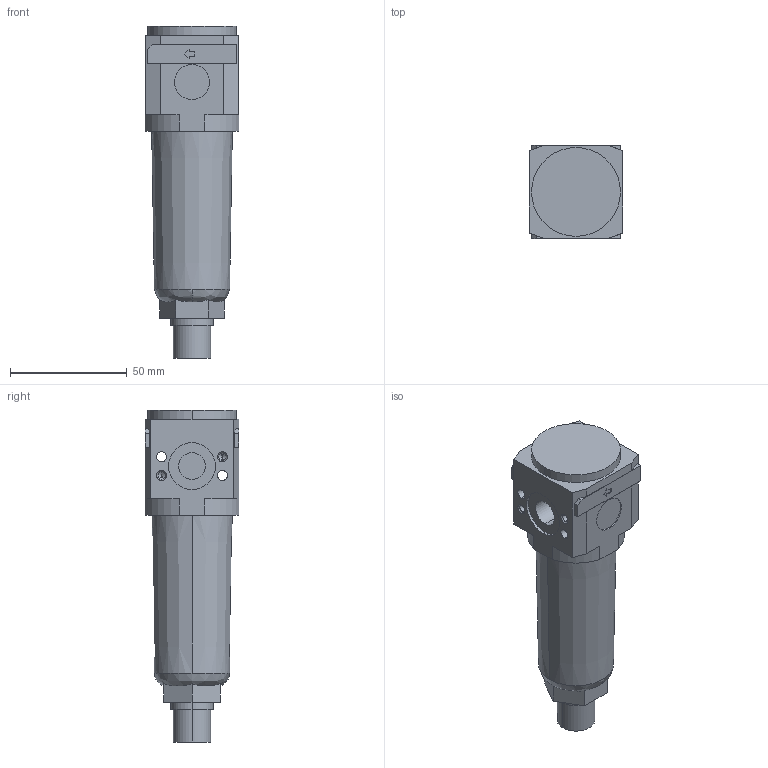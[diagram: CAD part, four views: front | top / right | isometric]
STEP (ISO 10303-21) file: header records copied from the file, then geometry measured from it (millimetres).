
FILE_DESCRIPTION((''),'2;1');
FILE_NAME('I:\DOC-EDP\Lib-3d\FRL\17101B_.stp','2003-06-16T14:42:49',('maffial1'),(''),'Autodesk Inventor 7','Autodesk Inventor 7','');
FILE_SCHEMA(('AUTOMOTIVE_DESIGN { 1 0 10303 214 1 1 1 1 }'));
Length unit declared in the file: millimetre
Products named in the file (1): 17101B_
Bounding box: 40 x 40 x 142 mm (x, y, z)
Volume: 131055.3 mm3; surface area: 24368 mm2
Topology: 1 solids, 3 shells, 148 faces, 368 edges, 236 vertices
Faces by surface type: bspline 57, plane 53, cylinder 28, cone 10
Entity records: 4795 total; most frequent: CARTESIAN_POINT 1390, ORIENTED_EDGE 720, DIRECTION 648, EDGE_CURVE 360, VERTEX_POINT 236, VECTOR 232, LINE 232, AXIS2_PLACEMENT_3D 208
